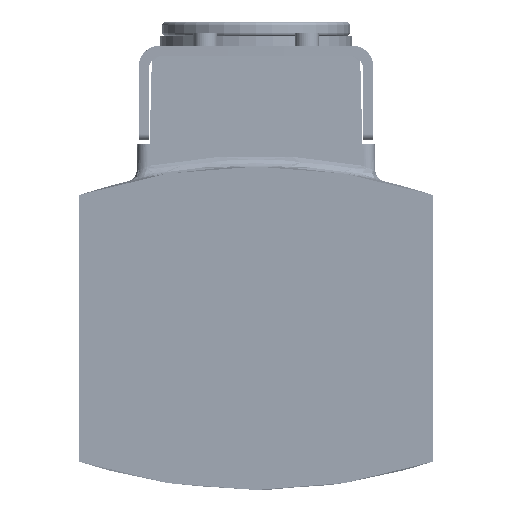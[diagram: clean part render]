
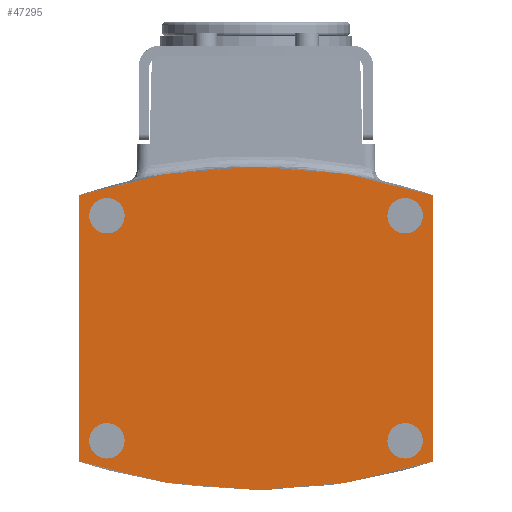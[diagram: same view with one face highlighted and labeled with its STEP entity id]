
A CAD part, front view. The second image highlights one B-rep face of the part: STEP entity #47295.
In plain terms, the highlighted planar face has unit normal (0, -1, 0) as drawn and (0, 0, -1) by its records, which use the part's own axes.
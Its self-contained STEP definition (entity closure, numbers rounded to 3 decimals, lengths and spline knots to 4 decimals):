
#2746=FACE_BOUND('',#18522,.T.);
#2747=FACE_BOUND('',#18523,.T.);
#2748=FACE_BOUND('',#18524,.T.);
#2749=FACE_BOUND('',#18525,.T.);
#3978=PLANE('',#50167);
#5367=LINE('',#71948,#8908);
#5368=LINE('',#71949,#8909);
#8908=VECTOR('',#55514,2.3651);
#8909=VECTOR('',#55515,2.3651);
#13596=CIRCLE('',#50164,5.);
#13597=CIRCLE('',#50166,5.);
#13598=CIRCLE('',#50168,0.1575);
#13599=CIRCLE('',#50169,0.1575);
#13600=CIRCLE('',#50170,0.1575);
#13601=CIRCLE('',#50171,0.1575);
#15725=FACE_OUTER_BOUND('',#18521,.T.);
#18521=EDGE_LOOP('',(#34177,#34178,#34179,#34180));
#18522=EDGE_LOOP('',(#34181));
#18523=EDGE_LOOP('',(#34182));
#18524=EDGE_LOOP('',(#34183));
#18525=EDGE_LOOP('',(#34184));
#22963=VERTEX_POINT('',#71936);
#22964=VERTEX_POINT('',#71938);
#22965=VERTEX_POINT('',#71942);
#22966=VERTEX_POINT('',#71943);
#22967=VERTEX_POINT('',#71950);
#22968=VERTEX_POINT('',#71952);
#22969=VERTEX_POINT('',#71954);
#22970=VERTEX_POINT('',#71956);
#27502=EDGE_CURVE('',#22963,#22964,#13596,.T.);
#27504=EDGE_CURVE('',#22965,#22966,#13597,.T.);
#27507=EDGE_CURVE('',#22963,#22966,#5367,.T.);
#27508=EDGE_CURVE('',#22965,#22964,#5368,.T.);
#27509=EDGE_CURVE('',#22967,#22967,#13598,.T.);
#27510=EDGE_CURVE('',#22968,#22968,#13599,.T.);
#27511=EDGE_CURVE('',#22969,#22969,#13600,.T.);
#27512=EDGE_CURVE('',#22970,#22970,#13601,.T.);
#34177=ORIENTED_EDGE('',*,*,#27502,.F.);
#34178=ORIENTED_EDGE('',*,*,#27507,.T.);
#34179=ORIENTED_EDGE('',*,*,#27504,.F.);
#34180=ORIENTED_EDGE('',*,*,#27508,.T.);
#34181=ORIENTED_EDGE('',*,*,#27509,.T.);
#34182=ORIENTED_EDGE('',*,*,#27510,.T.);
#34183=ORIENTED_EDGE('',*,*,#27511,.T.);
#34184=ORIENTED_EDGE('',*,*,#27512,.T.);
#47295=ADVANCED_FACE('',(#15725,#2746,#2747,#2748,#2749),#3978,.F.);
#50164=AXIS2_PLACEMENT_3D('',#71939,#55503,#55504);
#50166=AXIS2_PLACEMENT_3D('',#71944,#55508,#55509);
#50167=AXIS2_PLACEMENT_3D('',#71947,#55512,#55513);
#50168=AXIS2_PLACEMENT_3D('',#71951,#55516,#55517);
#50169=AXIS2_PLACEMENT_3D('',#71953,#55518,#55519);
#50170=AXIS2_PLACEMENT_3D('',#71955,#55520,#55521);
#50171=AXIS2_PLACEMENT_3D('',#71957,#55522,#55523);
#55503=DIRECTION('center_axis',(0.,0.,1.));
#55504=DIRECTION('ref_axis',(1.,0.,0.));
#55508=DIRECTION('center_axis',(0.,0.,1.));
#55509=DIRECTION('ref_axis',(1.,0.,0.));
#55512=DIRECTION('center_axis',(0.,0.,1.));
#55513=DIRECTION('ref_axis',(1.,0.,0.));
#55514=DIRECTION('',(1.,0.,0.));
#55515=DIRECTION('',(-1.,0.,0.));
#55516=DIRECTION('center_axis',(0.,0.,1.));
#55517=DIRECTION('ref_axis',(0.,1.,0.));
#55518=DIRECTION('center_axis',(0.,0.,1.));
#55519=DIRECTION('ref_axis',(0.,1.,0.));
#55520=DIRECTION('center_axis',(0.,0.,1.));
#55521=DIRECTION('ref_axis',(0.,1.,0.));
#55522=DIRECTION('center_axis',(0.,0.,1.));
#55523=DIRECTION('ref_axis',(0.,1.,0.));
#71936=CARTESIAN_POINT('',(-1.1825,1.5748,-0.41));
#71938=CARTESIAN_POINT('',(-1.1825,-1.5748,-0.41));
#71939=CARTESIAN_POINT('Origin',(3.563,0.,
-0.41));
#71942=CARTESIAN_POINT('',(1.1825,-1.5748,-0.41));
#71943=CARTESIAN_POINT('',(1.1825,1.5748,-0.41));
#71944=CARTESIAN_POINT('Origin',(-3.563,0.,
-0.41));
#71947=CARTESIAN_POINT('Origin',(1.75,-1.75,-0.41));
#71948=CARTESIAN_POINT('',(1.75,1.5748,-0.41));
#71949=CARTESIAN_POINT('',(1.75,-1.5748,-0.41));
#71950=CARTESIAN_POINT('',(1.,-1.1675,-0.41));
#71951=CARTESIAN_POINT('Origin',(1.,-1.325,-0.41));
#71952=CARTESIAN_POINT('',(-1.,-1.1675,-0.41));
#71953=CARTESIAN_POINT('Origin',(-1.,-1.325,-0.41));
#71954=CARTESIAN_POINT('',(-1.,1.4825,-0.41));
#71955=CARTESIAN_POINT('Origin',(-1.,1.325,-0.41));
#71956=CARTESIAN_POINT('',(1.,1.4825,-0.41));
#71957=CARTESIAN_POINT('Origin',(1.,1.325,-0.41));
